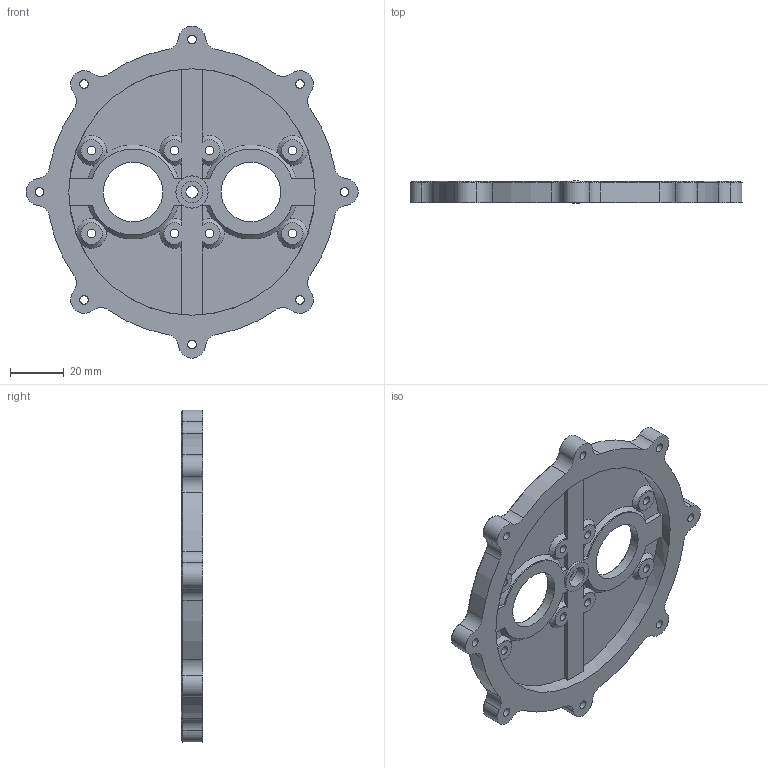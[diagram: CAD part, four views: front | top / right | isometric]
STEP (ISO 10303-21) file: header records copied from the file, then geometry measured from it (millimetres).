
FILE_DESCRIPTION(/* description */ (''),/* implementation_level */ '2;1');
FILE_NAME(/* name */ '\\192.168.3.8\kumagai\Develop\CAD\NakataOmni\DriveUnitR3\UpperCase.stp',/* time_stamp */ '2024-05-23T11:46:14+09:00',/* author */ ('kumagai'),/* organization */ (''),/* preprocessor_version */ 'ST-DEVELOPER v19',/* originating_system */ 'Autodesk Inventor 2023',/* authorisation */ '');
FILE_SCHEMA (('AUTOMOTIVE_DESIGN { 1 0 10303 214 3 1 1 }'));
Length unit declared in the file: millimetre
Products named in the file (1): UpperCase
Bounding box: 123.96 x 8 x 123.96 mm (x, y, z)
Volume: 40563.6 mm3; surface area: 24903.5 mm2
Topology: 1 solids, 1 shells, 149 faces, 398 edges, 254 vertices
Faces by surface type: cylinder 66, cone 46, plane 37
Full cylindrical faces by diameter (mm): 3.2 x16, 4.5 x1, 8 x5, 12 x1, 22.2 x2, 92 x1
Entity records: 4889 total; most frequent: CARTESIAN_POINT 930, DIRECTION 884, ORIENTED_EDGE 796, EDGE_CURVE 398, AXIS2_PLACEMENT_3D 364, VERTEX_POINT 254, CIRCLE 214, EDGE_LOOP 190
